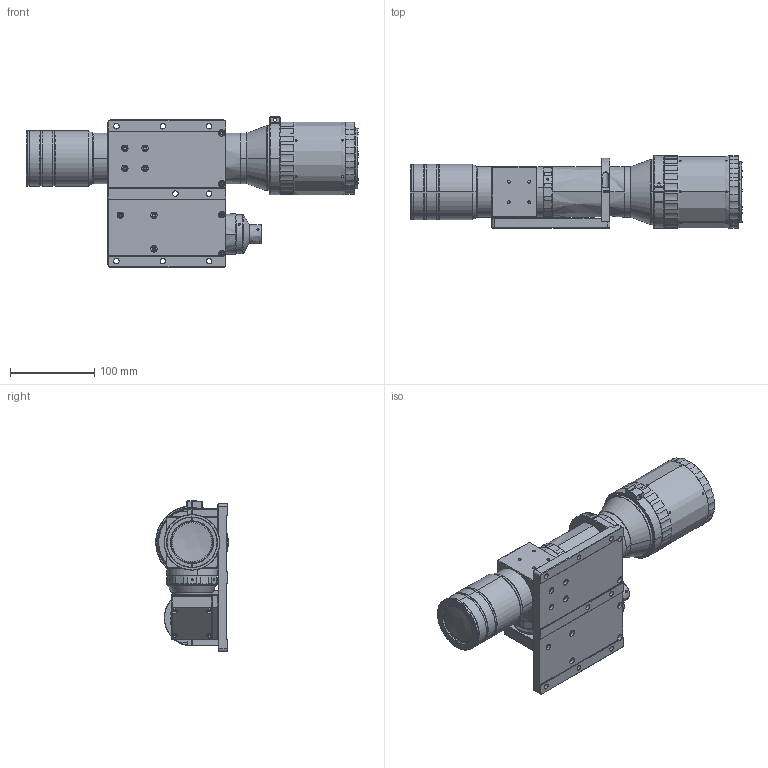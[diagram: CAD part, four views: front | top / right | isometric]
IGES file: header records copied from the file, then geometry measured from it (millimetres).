
Start section: SolidWorks IGES file using analytic representation for surfaces
Global section: file name: F:\BaiduSyncdisk\1-产品  2022-new\DTCA（2021.1.7.整体考过来）\--150M\DTCA150M-22.4C-G-M72-AL\同轴- V1\3D\DTCA150M-22.4C-G-M72-19.5-AL(8).IGS; native system: SolidWorks 2017; preprocessor: SolidWorks 2017; author: luo-PC; date: 240912.182115; units: millimetre
Bounding box: 393.97 x 86 x 178.99 mm (x, y, z)
Surface area: 222894.6 mm2 (no closed solid volume)
Topology: 0 solids, 0 shells, 1401 faces, 20359 edges, 20337 vertices
Faces by surface type: revolution 961, bspline 440
